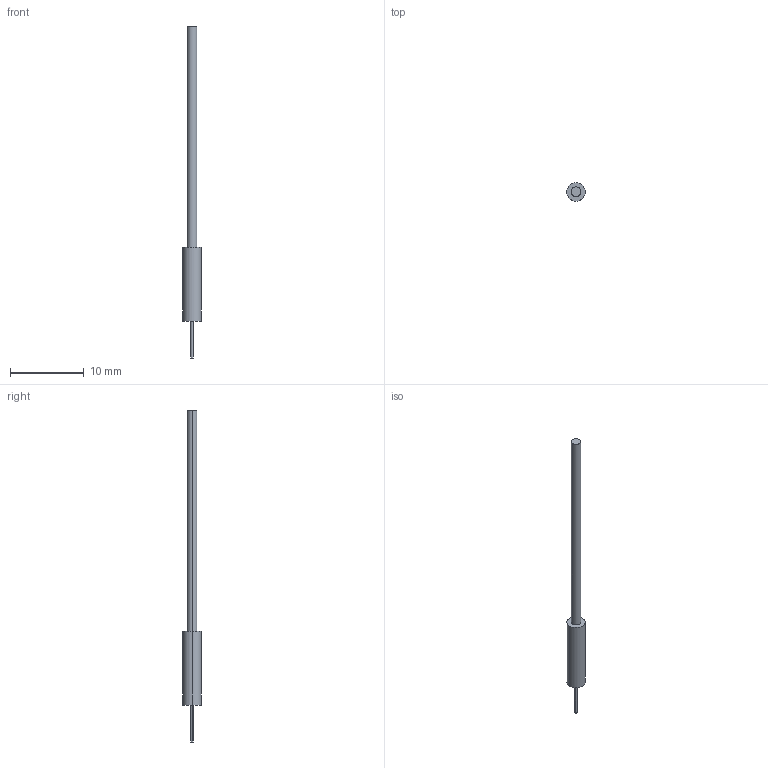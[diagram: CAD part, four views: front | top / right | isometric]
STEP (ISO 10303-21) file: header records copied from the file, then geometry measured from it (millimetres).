
FILE_DESCRIPTION (( 'STEP AP203' ), '1' );
FILE_NAME ('FQ-56_T.STEP', '2020-11-03T06:57:15', ( '' ), ( '' ), 'SwSTEP 2.0', 'SolidWorks 2020', '' );
FILE_SCHEMA (( 'CONFIG_CONTROL_DESIGN' ));
Length unit declared in the file: millimetre
Products named in the file (1): FQ-56_T
Bounding box: 2.5 x 2.5 x 45 mm (x, y, z)
Volume: 89.3 mm3; surface area: 215.7 mm2
Topology: 1 solids, 1 shells, 16 faces, 30 edges, 20 vertices
Faces by surface type: cylinder 10, plane 6
Entity records: 491 total; most frequent: DIRECTION 84, CARTESIAN_POINT 67, ORIENTED_EDGE 60, AXIS2_PLACEMENT_3D 37, EDGE_CURVE 30, VERTEX_POINT 20, CIRCLE 20, EDGE_LOOP 20
